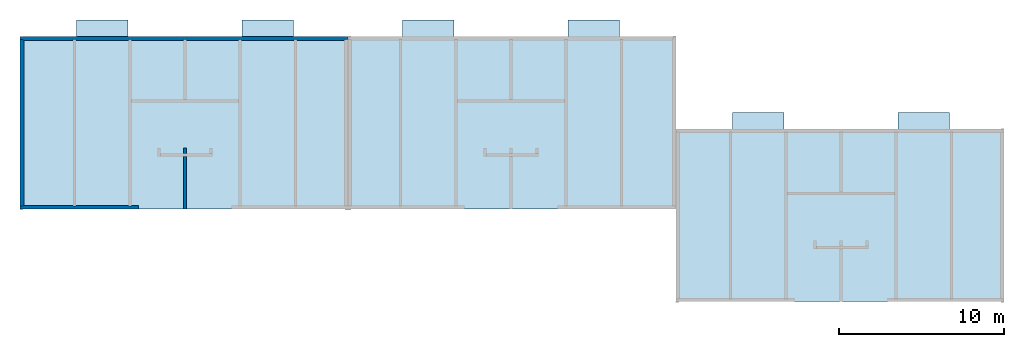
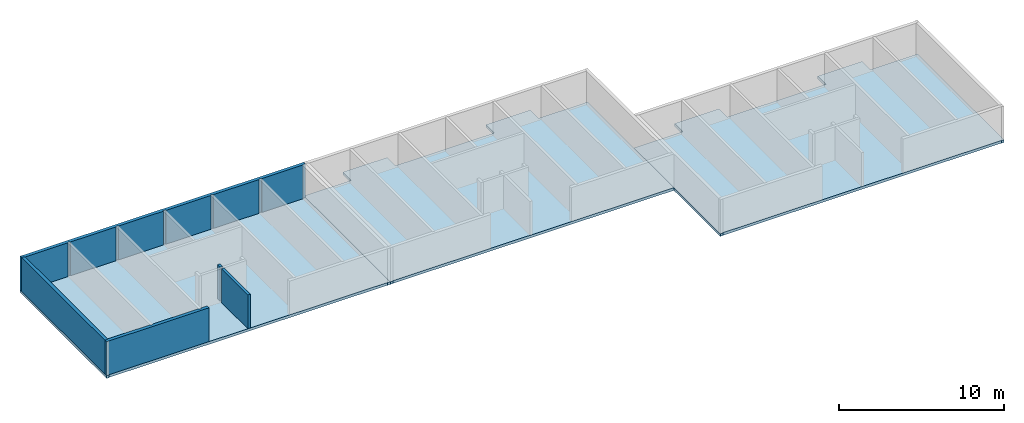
# One storey, part 7 of 9: 5 walls, 3 slabs.
"""IFC2X3 building model written with IfcOpenShell, lengths in metres."""

import ifcopenshell
import ifcopenshell.guid

model = None  # the IFC model being written
_history = None  # IfcOwnerHistory: only IFC2X3 demands one
_inside = {}  # id of a spatial element -> (the spatial element, [elements in it])
_under = {}  # id of a project, library or spatial element -> (it, [spatial elements below it])
_declared = {}  # id of a project -> (the project, [libraries it declares])
_typed = {}  # id of a type object -> (the type object, [elements of that type])
_made_of = {}  # id of a material, layer set ... -> (it, [elements and type objects made of it])


def new_model(schema):
    """Start an empty IFC model of exactly this schema.

    Asked for "IFC4X3", IfcOpenShell would pick the latest addendum, in which some entities
    have other attributes; the version numbers below select the first issue.
    IFC2X3 requires an IfcOwnerHistory on every rooted entity: one is made here for all.
    """
    global model, _history
    if schema == "IFC4X3":
        model = ifcopenshell.file(schema_version=(4, 3, 0, 0))
    else:
        model = ifcopenshell.file(schema=schema)
    _inside.clear()
    _under.clear()
    _declared.clear()
    _typed.clear()
    _made_of.clear()
    _history = None
    if model.schema == "IFC2X3":
        org = make("IfcOrganization", Name="unknown")
        user = make(
            "IfcPersonAndOrganization",
            ThePerson=make("IfcPerson", FamilyName="unknown"),
            TheOrganization=org,
        )
        app = make(
            "IfcApplication",
            ApplicationDeveloper=org,
            Version="unknown",
            ApplicationFullName="unknown",
            ApplicationIdentifier="unknown",
        )
        _history = make(
            "IfcOwnerHistory",
            OwningUser=user,
            OwningApplication=app,
            ChangeAction="ADDED",
            CreationDate=0,
        )
    return model


def make(cls, **values):
    """One entity of the class cls with the attributes given. An attribute that is None is left unset."""
    return model.create_entity(
        cls, **{name: value for name, value in values.items() if value is not None}
    )


def rooted(cls, **values):
    """An entity with a GlobalId (a new one), such as an element, a storey or a relation."""
    return make(cls, GlobalId=ifcopenshell.guid.new(), OwnerHistory=_history, **values)


def si_unit(unit_type, name, prefix=None):
    """IfcSIUnit, for example si_unit("LENGTHUNIT", "METRE", prefix="MILLI")."""
    return make("IfcSIUnit", UnitType=unit_type, Prefix=prefix, Name=name)


def assignment(units):
    """IfcUnitAssignment: the units of a project."""
    return None if units is None else make("IfcUnitAssignment", Units=units)


def point(xyz):
    """IfcCartesianPoint."""
    return None if xyz is None else make("IfcCartesianPoint", Coordinates=xyz)


def direction(xyz):
    """IfcDirection."""
    return None if xyz is None else make("IfcDirection", DirectionRatios=xyz)


def frame(location, z_axis=None, x_axis=None):
    """IfcAxis2Placement3D, a coordinate frame: its origin and axes. An axis left out is left unset."""
    return make(
        "IfcAxis2Placement3D",
        Location=point(location),
        Axis=direction(z_axis),
        RefDirection=direction(x_axis),
    )


def origin():
    """The frame at (0, 0, 0) with its axes left unset."""
    return frame((0.0, 0.0, 0.0))


def place(relative_to, where):
    """IfcLocalPlacement: puts the frame where relative to a parent placement (None: the world)."""
    return make(
        "IfcLocalPlacement", PlacementRelTo=relative_to, RelativePlacement=where
    )


def context(
    kind, dimensions, precision=None, world=None, true_north=None, identifier=None
):
    """IfcGeometricRepresentationContext, for example the 3D "Model" context."""
    return make(
        "IfcGeometricRepresentationContext",
        ContextIdentifier=identifier,
        ContextType=kind,
        CoordinateSpaceDimension=dimensions,
        Precision=precision,
        WorldCoordinateSystem=world,
        TrueNorth=true_north,
    )


def project(units=None, contexts=None):
    """IfcProject with its units and contexts."""
    return rooted(
        "IfcProject",
        Name="project",
        RepresentationContexts=contexts,
        UnitsInContext=assignment(units),
    )


def spatial(cls, under=None, at=None, **own):
    """A site, building, storey or space (cls), placed at a placement, below another one or the project."""
    s = rooted(cls, ObjectPlacement=at, **own)
    if under is not None:
        _under.setdefault(under.id(), (under, []))[1].append(s)
    return s


def faces_of(points, faces, orient=None, outer=None):
    """IfcFace entities. A face is a list of loops; a loop is a list of indices into points, from 0.

    orient and outer hold one flag for each loop. By default every Orientation is true, the
    first loop of a face is its IfcFaceOuterBound and the others are IfcFaceBound.
    """
    made = []
    for i, loops in enumerate(faces):
        bounds = []
        for j, loop in enumerate(loops):
            is_outer = j == 0 if outer is None else outer[i][j]
            bounds.append(
                make(
                    "IfcFaceOuterBound" if is_outer else "IfcFaceBound",
                    Bound=make("IfcPolyLoop", Polygon=[points[k] for k in loop]),
                    Orientation=True if orient is None else orient[i][j],
                )
            )
        made.append(make("IfcFace", Bounds=bounds))
    return made


def faceted_brep(points, faces, orient=None, outer=None, voids=None):
    """IfcFacetedBrep: a solid bounded by flat faces; with voids (closed shells), ...WithVoids."""
    shared = [point(p) for p in points]
    hull = make("IfcClosedShell", CfsFaces=faces_of(shared, faces, orient, outer))
    if voids is None:
        return make("IfcFacetedBrep", Outer=hull)
    return make(
        "IfcFacetedBrepWithVoids",
        Outer=hull,
        Voids=[
            make(cls, CfsFaces=faces_of(shared, fs, o, b)) for cls, fs, o, b in voids
        ],
    )


def shape(context_of_items, identifier, shape_type, items):
    """IfcShapeRepresentation: the items that make up one representation, for example the "Body"."""
    return make(
        "IfcShapeRepresentation",
        ContextOfItems=context_of_items,
        RepresentationIdentifier=identifier,
        RepresentationType=shape_type,
        Items=items,
    )


def made_of(thing, what):
    """Note that an element or type object is made of a material, layer set ...; save() writes the relation."""
    if what is not None:
        _made_of.setdefault(what.id(), (what, []))[1].append(thing)
    return thing


def element(
    cls,
    number,
    at=None,
    inside=None,
    cuts=None,
    type_object=None,
    material=None,
    context=None,
    identifier="Body",
    shape_type=None,
    held_by="IfcProductDefinitionShape",
    body=None,
    shapes=None,
    **own,
):
    """One element of the class cls, such as IfcWall. Its Tag is "e" and its number.

    at: its placement. inside: the storey or other place that contains it. cuts: it is an
    opening in that element (IfcRelVoidsElement). A single representation is given by context,
    identifier, shape_type and body (its items); several are given by shapes. held_by: the class
    of the entity that holds the representations. save() writes the other relations.
    """
    e = rooted(cls, Tag="e%d" % number, ObjectPlacement=at, **own)
    if body is not None:
        shapes = [shape(context, identifier, shape_type, body)]
    if shapes is not None:
        e.Representation = make(held_by, Representations=shapes)
    if inside is not None:
        _inside.setdefault(inside.id(), (inside, []))[1].append(e)
    if cuts is not None:
        rooted(
            "IfcRelVoidsElement", RelatingBuildingElement=cuts, RelatedOpeningElement=e
        )
    if type_object is not None:
        _typed.setdefault(type_object.id(), (type_object, []))[1].append(e)
    return made_of(e, material)


def aggregate(whole, parts):
    """IfcRelAggregates: a whole, such as a stair, and the parts it consists of."""
    return rooted("IfcRelAggregates", RelatingObject=whole, RelatedObjects=parts)


def save(model, path):
    """Write the relations noted so far, then the file.

    IfcRelAggregates (storeys below a building ...), IfcRelContainedInSpatialStructure (elements
    in a storey), IfcRelDefinesByType, IfcRelAssociatesMaterial and IfcRelDeclares: one each for
    every whole, place, type object, material and project.
    """
    for whole, parts in _under.values():
        aggregate(whole, parts)
    for where, things in _inside.values():
        rooted(
            "IfcRelContainedInSpatialStructure",
            RelatedElements=things,
            RelatingStructure=where,
        )
    for kind, things in _typed.values():
        rooted("IfcRelDefinesByType", RelatedObjects=things, RelatingType=kind)
    for what, things in _made_of.values():
        rooted("IfcRelAssociatesMaterial", RelatedObjects=things, RelatingMaterial=what)
    for by, libraries in _declared.values():
        rooted("IfcRelDeclares", RelatingContext=by, RelatedDefinitions=libraries)
    model.write(path)


model = new_model("IFC2X3")

# Units and contexts
model_context = context("Model", 3, precision=1e-06, world=origin())
ifc_project = project(units=[si_unit("LENGTHUNIT", "METRE"), si_unit("PLANEANGLEUNIT", "RADIAN")], contexts=[model_context])

# Site, building, storey
site = spatial("IfcSite", under=ifc_project, CompositionType="ELEMENT")
building = spatial("IfcBuilding", under=site, CompositionType="ELEMENT")
storey = spatial("IfcBuildingStorey", under=building, Name="r+2", CompositionType="ELEMENT", Elevation=5.4)

# Slabs
placement = place(None, origin())
slab_1_placement = place(placement, frame((19.849999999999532, 2e-15, 5.2), z_axis=(0.0, 0.0, 1.0), x_axis=(1.0, 0.0, 0.0)))
element("IfcSlab", 1, at=slab_1_placement, inside=storey, PredefinedType="USERDEFINED", context=model_context, shape_type="Brep", body=[
    faceted_brep([(0.180000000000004, 10.490077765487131, 0.2), (0.180000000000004, 10.470077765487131, 0.2), (0.180000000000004, 10.470077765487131, 0.0), (0.180000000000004, 10.490077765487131, 0.0), (0.180000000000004, 10.470077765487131, 0.2), (3.310000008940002, 10.47007768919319, 0.2), (3.310000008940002, 10.47007768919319, 0.0), (0.180000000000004, 10.470077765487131, 0.0), (3.310000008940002, 10.47007768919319, 0.2), (3.310401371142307, 11.47007760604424, 0.2), (3.310401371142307, 11.47007760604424, 0.0), (3.310000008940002, 10.47007768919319, 0.0), (3.310401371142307, 11.47007760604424, 0.2), (6.410401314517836, 11.47007760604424, 0.2), (6.410401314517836, 11.47007760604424, 0.0), (3.310401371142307, 11.47007760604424, 0.0), (6.410401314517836, 11.47007760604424, 0.2), (6.409999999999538, 10.47007775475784, 0.2), (6.409999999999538, 10.47007775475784, 0.0), (6.410401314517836, 11.47007760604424, 0.0), (6.409999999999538, 10.47007775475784, 0.2), (13.31999999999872, 10.47007768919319, 0.2), (13.31999999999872, 10.47007768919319, 0.0), (6.409999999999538, 10.47007775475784, 0.0), (13.31999999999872, 10.47007768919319, 0.2), (13.31999990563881, 11.47007760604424, 0.2), (13.31999990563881, 11.47007760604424, 0.0), (13.31999999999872, 10.47007768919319, 0.0), (13.31999990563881, 11.47007760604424, 0.2), (16.41999999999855, 11.47007775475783, 0.2), (16.41999999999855, 11.47007775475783, 0.0), (13.31999990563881, 11.47007760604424, 0.0), (16.41999999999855, 11.47007775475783, 0.2), (16.41999999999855, 10.470077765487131, 0.2), (16.41999999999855, 10.470077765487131, 0.0), (16.41999999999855, 11.47007775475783, 0.0), (16.41999999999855, 10.470077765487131, 0.2), (19.669999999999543, 10.470077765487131, 0.2), (19.669999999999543, 10.470077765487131, 0.0), (16.41999999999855, 10.470077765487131, 0.0), (19.669999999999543, 10.470077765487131, 0.2), (19.669999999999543, 10.490077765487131, 0.2), (19.669999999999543, 10.490077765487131, 0.0), (19.669999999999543, 10.470077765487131, 0.0), (19.669999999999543, 10.490077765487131, 0.2), (19.849999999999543, 10.490077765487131, 0.2), (19.849999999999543, 10.490077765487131, 0.0), (19.669999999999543, 10.490077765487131, 0.0), (19.849999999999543, 10.490077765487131, 0.2), (19.849999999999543, 0.020077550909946, 0.2), (19.849999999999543, 0.020077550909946, 0.0), (19.849999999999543, 10.490077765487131, 0.0), (19.849999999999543, 0.020077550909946, 0.2), (12.92499999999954, 0.020162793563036, 0.2), (12.92499999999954, 0.020162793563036, 0.0), (19.849999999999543, 0.020077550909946, 0.0), (12.92499999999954, 0.020162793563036, 0.2), (6.805000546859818, 0.020162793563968, 0.2), (6.805000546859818, 0.020162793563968, 0.0), (12.92499999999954, 0.020162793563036, 0.0), (6.805000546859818, 0.020162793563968, 0.2), (0.18, 0.020162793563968, 0.2), (0.18, 0.020162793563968, 0.0), (6.805000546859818, 0.020162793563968, 0.0), (0.18, 0.020162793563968, 0.2), (0.18, 0.0, 0.2), (0.18, 0.0, 0.0), (0.18, 0.020162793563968, 0.0), (0.18, 0.0, 0.2), (0.0, 0.0, 0.2), (0.0, 0.0, 0.0), (0.18, 0.0, 0.0), (0.0, 0.0, 0.2), (4e-15, 10.490077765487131, 0.2), (4e-15, 10.490077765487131, 0.0), (0.0, 0.0, 0.0), (4e-15, 10.490077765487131, 0.2), (0.180000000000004, 10.490077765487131, 0.2), (0.180000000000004, 10.490077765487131, 0.0), (4e-15, 10.490077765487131, 0.0), (0.180000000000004, 10.490077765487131, 0.2), (4e-15, 10.490077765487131, 0.2), (0.0, 0.0, 0.2), (0.18, 0.0, 0.2), (0.18, 0.020162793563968, 0.2), (6.805000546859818, 0.020162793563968, 0.2), (12.92499999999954, 0.020162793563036, 0.2), (19.849999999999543, 0.020077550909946, 0.2), (19.849999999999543, 10.490077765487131, 0.2), (19.669999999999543, 10.490077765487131, 0.2), (19.669999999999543, 10.470077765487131, 0.2), (16.41999999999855, 10.470077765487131, 0.2), (16.41999999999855, 11.47007775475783, 0.2), (13.31999990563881, 11.47007760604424, 0.2), (13.31999999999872, 10.47007768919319, 0.2), (6.409999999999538, 10.47007775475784, 0.2), (6.410401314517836, 11.47007760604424, 0.2), (3.310401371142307, 11.47007760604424, 0.2), (3.310000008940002, 10.47007768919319, 0.2), (0.180000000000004, 10.470077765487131, 0.2), (0.180000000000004, 10.490077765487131, 0.0), (0.180000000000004, 10.470077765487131, 0.0), (3.310000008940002, 10.47007768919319, 0.0), (3.310401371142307, 11.47007760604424, 0.0), (6.410401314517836, 11.47007760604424, 0.0), (6.409999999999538, 10.47007775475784, 0.0), (13.31999999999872, 10.47007768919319, 0.0), (13.31999990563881, 11.47007760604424, 0.0), (16.41999999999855, 11.47007775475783, 0.0), (16.41999999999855, 10.470077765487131, 0.0), (19.669999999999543, 10.470077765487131, 0.0), (19.669999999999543, 10.490077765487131, 0.0), (19.849999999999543, 10.490077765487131, 0.0), (19.849999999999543, 0.020077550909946, 0.0), (12.92499999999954, 0.020162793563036, 0.0), (6.805000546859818, 0.020162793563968, 0.0), (0.18, 0.020162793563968, 0.0), (0.18, 0.0, 0.0), (0.0, 0.0, 0.0), (4e-15, 10.490077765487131, 0.0)], [[[0, 1, 2, 3]], [[4, 5, 6, 7]], [[8, 9, 10, 11]], [[12, 13, 14, 15]], [[16, 17, 18, 19]], [[20, 21, 22, 23]], [[24, 25, 26, 27]], [[28, 29, 30, 31]], [[32, 33, 34, 35]], [[36, 37, 38, 39]], [[40, 41, 42, 43]], [[44, 45, 46, 47]], [[48, 49, 50, 51]], [[52, 53, 54, 55]], [[56, 57, 58, 59]], [[60, 61, 62, 63]], [[64, 65, 66, 67]], [[68, 69, 70, 71]], [[72, 73, 74, 75]], [[76, 77, 78, 79]], [[80, 81, 82, 83, 84, 85, 86, 87, 88, 89, 90, 91, 92, 93, 94, 95, 96, 97, 98, 99]], [[100, 101, 102, 103, 104, 105, 106, 107, 108, 109, 110, 111, 112, 113, 114, 115, 116, 117, 118, 119]]]),
])
slab_2_placement = place(placement, frame((-6e-15, 0.0, 5.2), z_axis=(0.0, 0.0, 1.0), x_axis=(1.0, 0.0, 0.0)))
element("IfcSlab", 2, at=slab_2_placement, inside=storey, PredefinedType="USERDEFINED", context=model_context, shape_type="Brep", body=[
    faceted_brep([(0.180000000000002, 10.49007776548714, 0.2), (0.180000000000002, 10.47007776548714, 0.2), (0.180000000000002, 10.47007776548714, 0.0), (0.180000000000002, 10.49007776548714, 0.0), (0.180000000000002, 10.47007776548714, 0.2), (3.430000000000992, 10.470077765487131, 0.2), (3.430000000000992, 10.470077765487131, 0.0), (0.180000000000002, 10.47007776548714, 0.0), (3.430000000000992, 10.470077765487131, 0.2), (3.430000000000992, 11.47007775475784, 0.2), (3.430000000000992, 11.47007775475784, 0.0), (3.430000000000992, 10.470077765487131, 0.0), (3.430000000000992, 11.47007775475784, 0.2), (6.530000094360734, 11.47007760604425, 0.2), (6.530000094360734, 11.47007760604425, 0.0), (3.430000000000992, 11.47007775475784, 0.0), (6.530000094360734, 11.47007760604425, 0.2), (6.530000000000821, 10.47007768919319, 0.2), (6.530000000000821, 10.47007768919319, 0.0), (6.530000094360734, 11.47007760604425, 0.0), (6.530000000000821, 10.47007768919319, 0.2), (13.44, 10.47007775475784, 0.2), (13.44, 10.47007775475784, 0.0), (6.530000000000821, 10.47007768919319, 0.0), (13.44, 10.47007775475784, 0.2), (13.439598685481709, 11.47007760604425, 0.2), (13.439598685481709, 11.47007760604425, 0.0), (13.44, 10.47007775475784, 0.0), (13.439598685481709, 11.47007760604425, 0.2), (16.539598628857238, 11.47007760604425, 0.2), (16.539598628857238, 11.47007760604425, 0.0), (13.439598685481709, 11.47007760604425, 0.0), (16.539598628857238, 11.47007760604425, 0.2), (16.53999999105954, 10.47007768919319, 0.2), (16.53999999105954, 10.47007768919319, 0.0), (16.539598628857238, 11.47007760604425, 0.0), (16.53999999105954, 10.47007768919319, 0.2), (19.669999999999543, 10.470077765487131, 0.2), (19.669999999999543, 10.470077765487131, 0.0), (16.53999999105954, 10.47007768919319, 0.0), (19.669999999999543, 10.470077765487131, 0.2), (19.669999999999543, 10.49007776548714, 0.2), (19.669999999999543, 10.49007776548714, 0.0), (19.669999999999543, 10.470077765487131, 0.0), (19.669999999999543, 10.49007776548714, 0.2), (19.849999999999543, 10.49007776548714, 0.2), (19.849999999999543, 10.49007776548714, 0.0), (19.669999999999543, 10.49007776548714, 0.0), (19.849999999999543, 10.49007776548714, 0.2), (19.849999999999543, 2e-15, 0.2), (19.849999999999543, 2e-15, 0.0), (19.849999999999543, 10.49007776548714, 0.0), (19.849999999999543, 2e-15, 0.2), (19.669999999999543, 2e-15, 0.2), (19.669999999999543, 2e-15, 0.0), (19.849999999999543, 2e-15, 0.0), (19.669999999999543, 2e-15, 0.2), (19.669999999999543, 0.02016279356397, 0.2), (19.669999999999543, 0.02016279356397, 0.0), (19.669999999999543, 2e-15, 0.0), (19.669999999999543, 0.02016279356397, 0.2), (13.045000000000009, 0.02016279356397, 0.2), (13.045000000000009, 0.02016279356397, 0.0), (19.669999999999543, 0.02016279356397, 0.0), (13.045000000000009, 0.02016279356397, 0.2), (6.925000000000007, 0.020077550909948, 0.2), (6.925000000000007, 0.020077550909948, 0.0), (13.045000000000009, 0.02016279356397, 0.0), (6.925000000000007, 0.020077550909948, 0.2), (0.18, 0.020077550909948, 0.2), (0.18, 0.020077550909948, 0.0), (6.925000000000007, 0.020077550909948, 0.0), (0.18, 0.020077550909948, 0.2), (0.18, 0.0, 0.2), (0.18, 0.0, 0.0), (0.18, 0.020077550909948, 0.0), (0.18, 0.0, 0.2), (0.0, 0.0, 0.2), (0.0, 0.0, 0.0), (0.18, 0.0, 0.0), (0.0, 0.0, 0.2), (2e-15, 10.49007776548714, 0.2), (2e-15, 10.49007776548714, 0.0), (0.0, 0.0, 0.0), (2e-15, 10.49007776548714, 0.2), (0.180000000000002, 10.49007776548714, 0.2), (0.180000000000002, 10.49007776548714, 0.0), (2e-15, 10.49007776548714, 0.0), (0.180000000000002, 10.49007776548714, 0.2), (2e-15, 10.49007776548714, 0.2), (0.0, 0.0, 0.2), (0.18, 0.0, 0.2), (0.18, 0.020077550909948, 0.2), (6.925000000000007, 0.020077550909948, 0.2), (13.045000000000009, 0.02016279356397, 0.2), (19.669999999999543, 0.02016279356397, 0.2), (19.669999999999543, 2e-15, 0.2), (19.849999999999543, 2e-15, 0.2), (19.849999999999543, 10.49007776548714, 0.2), (19.669999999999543, 10.49007776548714, 0.2), (19.669999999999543, 10.470077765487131, 0.2), (16.53999999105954, 10.47007768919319, 0.2), (16.539598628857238, 11.47007760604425, 0.2), (13.439598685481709, 11.47007760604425, 0.2), (13.44, 10.47007775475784, 0.2), (6.530000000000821, 10.47007768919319, 0.2), (6.530000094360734, 11.47007760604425, 0.2), (3.430000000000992, 11.47007775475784, 0.2), (3.430000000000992, 10.470077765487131, 0.2), (0.180000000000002, 10.47007776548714, 0.2), (0.180000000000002, 10.49007776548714, 0.0), (0.180000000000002, 10.47007776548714, 0.0), (3.430000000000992, 10.470077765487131, 0.0), (3.430000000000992, 11.47007775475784, 0.0), (6.530000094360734, 11.47007760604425, 0.0), (6.530000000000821, 10.47007768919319, 0.0), (13.44, 10.47007775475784, 0.0), (13.439598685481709, 11.47007760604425, 0.0), (16.539598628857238, 11.47007760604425, 0.0), (16.53999999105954, 10.47007768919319, 0.0), (19.669999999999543, 10.470077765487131, 0.0), (19.669999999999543, 10.49007776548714, 0.0), (19.849999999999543, 10.49007776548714, 0.0), (19.849999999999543, 2e-15, 0.0), (19.669999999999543, 2e-15, 0.0), (19.669999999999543, 0.02016279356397, 0.0), (13.045000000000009, 0.02016279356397, 0.0), (6.925000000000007, 0.020077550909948, 0.0), (0.18, 0.020077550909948, 0.0), (0.18, 0.0, 0.0), (0.0, 0.0, 0.0), (2e-15, 10.49007776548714, 0.0)], [[[0, 1, 2, 3]], [[4, 5, 6, 7]], [[8, 9, 10, 11]], [[12, 13, 14, 15]], [[16, 17, 18, 19]], [[20, 21, 22, 23]], [[24, 25, 26, 27]], [[28, 29, 30, 31]], [[32, 33, 34, 35]], [[36, 37, 38, 39]], [[40, 41, 42, 43]], [[44, 45, 46, 47]], [[48, 49, 50, 51]], [[52, 53, 54, 55]], [[56, 57, 58, 59]], [[60, 61, 62, 63]], [[64, 65, 66, 67]], [[68, 69, 70, 71]], [[72, 73, 74, 75]], [[76, 77, 78, 79]], [[80, 81, 82, 83]], [[84, 85, 86, 87]], [[88, 89, 90, 91, 92, 93, 94, 95, 96, 97, 98, 99, 100, 101, 102, 103, 104, 105, 106, 107, 108, 109]], [[110, 111, 112, 113, 114, 115, 116, 117, 118, 119, 120, 121, 122, 123, 124, 125, 126, 127, 128, 129, 130, 131]]]),
])
slab_3_placement = place(placement, frame((39.69999999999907, -5.599999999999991, 5.2), z_axis=(0.0, 0.0, 1.0), x_axis=(1.0, 0.0, 0.0)))
element("IfcSlab", 3, at=slab_3_placement, inside=storey, PredefinedType="USERDEFINED", context=model_context, shape_type="Brep", body=[
    faceted_brep([(0.18, 10.47007776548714, 0.2), (3.430000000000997, 10.470077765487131, 0.2), (3.430000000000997, 10.470077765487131, 0.0), (0.18, 10.47007776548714, 0.0), (3.430000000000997, 10.470077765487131, 0.2), (3.430000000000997, 11.47007775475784, 0.2), (3.430000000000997, 11.47007775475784, 0.0), (3.430000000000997, 10.470077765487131, 0.0), (3.430000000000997, 11.47007775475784, 0.2), (6.530000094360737, 11.47007760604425, 0.2), (6.530000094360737, 11.47007760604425, 0.0), (3.430000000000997, 11.47007775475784, 0.0), (6.530000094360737, 11.47007760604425, 0.2), (6.530000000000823, 10.47007768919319, 0.2), (6.530000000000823, 10.47007768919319, 0.0), (6.530000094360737, 11.47007760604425, 0.0), (6.530000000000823, 10.47007768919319, 0.2), (13.44000000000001, 10.47007775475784, 0.2), (13.44000000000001, 10.47007775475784, 0.0), (6.530000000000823, 10.47007768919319, 0.0), (13.44000000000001, 10.47007775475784, 0.2), (13.439598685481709, 11.47007760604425, 0.2), (13.439598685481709, 11.47007760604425, 0.0), (13.44000000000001, 10.47007775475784, 0.0), (13.439598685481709, 11.47007760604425, 0.2), (16.539598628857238, 11.47007760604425, 0.2), (16.539598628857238, 11.47007760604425, 0.0), (13.439598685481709, 11.47007760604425, 0.0), (16.539598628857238, 11.47007760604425, 0.2), (16.53999999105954, 10.47007768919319, 0.2), (16.53999999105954, 10.47007768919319, 0.0), (16.539598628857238, 11.47007760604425, 0.0), (16.53999999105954, 10.47007768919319, 0.2), (19.669999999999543, 10.470077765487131, 0.2), (19.669999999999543, 10.470077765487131, 0.0), (16.53999999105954, 10.47007768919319, 0.0), (19.669999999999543, 10.470077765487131, 0.2), (19.669999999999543, 10.49007776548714, 0.2), (19.669999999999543, 10.49007776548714, 0.0), (19.669999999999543, 10.470077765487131, 0.0), (19.669999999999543, 10.49007776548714, 0.2), (19.849999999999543, 10.49007776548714, 0.2), (19.849999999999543, 10.49007776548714, 0.0), (19.669999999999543, 10.49007776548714, 0.0), (19.849999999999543, 10.49007776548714, 0.2), (19.849999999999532, 2e-15, 0.2), (19.849999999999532, 2e-15, 0.0), (19.849999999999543, 10.49007776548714, 0.0), (19.849999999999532, 2e-15, 0.2), (19.669999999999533, 2e-15, 0.2), (19.669999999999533, 2e-15, 0.0), (19.849999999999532, 2e-15, 0.0), (19.669999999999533, 2e-15, 0.2), (19.669999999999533, 0.02016279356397, 0.2), (19.669999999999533, 0.02016279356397, 0.0), (19.669999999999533, 2e-15, 0.0), (19.669999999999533, 0.02016279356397, 0.2), (13.04500000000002, 0.02016279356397, 0.2), (13.04500000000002, 0.02016279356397, 0.0), (19.669999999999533, 0.02016279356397, 0.0), (13.04500000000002, 0.02016279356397, 0.2), (6.925000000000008, 0.020077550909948, 0.2), (6.925000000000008, 0.020077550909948, 0.0), (13.04500000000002, 0.02016279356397, 0.0), (6.925000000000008, 0.020077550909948, 0.2), (0.18, 0.020077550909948, 0.2), (0.18, 0.020077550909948, 0.0), (6.925000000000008, 0.020077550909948, 0.0), (0.18, 0.020077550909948, 0.2), (0.18, 0.0, 0.2), (0.18, 0.0, 0.0), (0.18, 0.020077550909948, 0.0), (0.18, 0.0, 0.2), (0.0, 0.0, 0.2), (0.0, 0.0, 0.0), (0.18, 0.0, 0.0), (0.0, 0.0, 0.2), (7e-15, 10.47007776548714, 0.2), (7e-15, 10.47007776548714, 0.0), (0.0, 0.0, 0.0), (7e-15, 10.47007776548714, 0.2), (0.18, 10.47007776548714, 0.2), (0.18, 10.47007776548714, 0.0), (7e-15, 10.47007776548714, 0.0), (0.18, 10.47007776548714, 0.2), (7e-15, 10.47007776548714, 0.2), (0.0, 0.0, 0.2), (0.18, 0.0, 0.2), (0.18, 0.020077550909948, 0.2), (6.925000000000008, 0.020077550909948, 0.2), (13.04500000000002, 0.02016279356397, 0.2), (19.669999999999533, 0.02016279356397, 0.2), (19.669999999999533, 2e-15, 0.2), (19.849999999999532, 2e-15, 0.2), (19.849999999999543, 10.49007776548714, 0.2), (19.669999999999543, 10.49007776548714, 0.2), (19.669999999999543, 10.470077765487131, 0.2), (16.53999999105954, 10.47007768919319, 0.2), (16.539598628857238, 11.47007760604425, 0.2), (13.439598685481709, 11.47007760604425, 0.2), (13.44000000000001, 10.47007775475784, 0.2), (6.530000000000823, 10.47007768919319, 0.2), (6.530000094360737, 11.47007760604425, 0.2), (3.430000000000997, 11.47007775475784, 0.2), (3.430000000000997, 10.470077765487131, 0.2), (0.18, 10.47007776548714, 0.0), (3.430000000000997, 10.470077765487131, 0.0), (3.430000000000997, 11.47007775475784, 0.0), (6.530000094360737, 11.47007760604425, 0.0), (6.530000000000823, 10.47007768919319, 0.0), (13.44000000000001, 10.47007775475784, 0.0), (13.439598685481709, 11.47007760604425, 0.0), (16.539598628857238, 11.47007760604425, 0.0), (16.53999999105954, 10.47007768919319, 0.0), (19.669999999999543, 10.470077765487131, 0.0), (19.669999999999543, 10.49007776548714, 0.0), (19.849999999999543, 10.49007776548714, 0.0), (19.849999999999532, 2e-15, 0.0), (19.669999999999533, 2e-15, 0.0), (19.669999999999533, 0.02016279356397, 0.0), (13.04500000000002, 0.02016279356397, 0.0), (6.925000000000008, 0.020077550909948, 0.0), (0.18, 0.020077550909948, 0.0), (0.18, 0.0, 0.0), (0.0, 0.0, 0.0), (7e-15, 10.47007776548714, 0.0)], [[[0, 1, 2, 3]], [[4, 5, 6, 7]], [[8, 9, 10, 11]], [[12, 13, 14, 15]], [[16, 17, 18, 19]], [[20, 21, 22, 23]], [[24, 25, 26, 27]], [[28, 29, 30, 31]], [[32, 33, 34, 35]], [[36, 37, 38, 39]], [[40, 41, 42, 43]], [[44, 45, 46, 47]], [[48, 49, 50, 51]], [[52, 53, 54, 55]], [[56, 57, 58, 59]], [[60, 61, 62, 63]], [[64, 65, 66, 67]], [[68, 69, 70, 71]], [[72, 73, 74, 75]], [[76, 77, 78, 79]], [[80, 81, 82, 83]], [[84, 85, 86, 87, 88, 89, 90, 91, 92, 93, 94, 95, 96, 97, 98, 99, 100, 101, 102, 103, 104]], [[105, 106, 107, 108, 109, 110, 111, 112, 113, 114, 115, 116, 117, 118, 119, 120, 121, 122, 123, 124, 125]]]),
])

# Walls
wall_1_placement = place(placement, frame((19.849999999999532, 10.47007776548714, 5.4), z_axis=(0.0, 0.0, 1.0), x_axis=(-1.0, 0.0, 0.0)))
element("IfcWall", 4, at=wall_1_placement, inside=storey, context=model_context, shape_type="Brep", body=[
    faceted_brep([(19.62999999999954, 0.23, 2.5), (19.62999999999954, 0.22, 2.5), (19.62999999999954, 0.22, 0.0), (19.62999999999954, 0.23, 0.0), (19.62999999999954, 0.22, 2.5), (19.669999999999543, 0.22, 2.5), (19.669999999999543, 0.22, 0.0), (19.62999999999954, 0.22, 0.0), (19.669999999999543, 0.22, 2.5), (19.669999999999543, 0.18, 2.5), (19.669999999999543, 0.18, 0.0), (19.669999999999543, 0.22, 0.0), (19.669999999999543, 0.18, 2.5), (19.849999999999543, 0.18, 2.5), (19.849999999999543, 0.18, 0.0), (19.669999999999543, 0.18, 0.0), (19.849999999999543, 0.18, 2.5), (19.849999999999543, 0.0, 2.5), (19.849999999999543, 0.0, 0.0), (19.849999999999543, 0.18, 0.0), (19.849999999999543, 0.0, 2.5), (0.0, 0.0, 2.5), (0.0, 0.0, 0.0), (19.849999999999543, 0.0, 0.0), (0.0, 0.0, 2.5), (0.0, 0.18, 2.5), (0.0, 0.18, 0.0), (0.0, 0.0, 0.0), (0.0, 0.18, 2.5), (0.18, 0.18, 2.5), (0.18, 0.18, 0.0), (0.0, 0.18, 0.0), (0.18, 0.18, 2.5), (0.18, 0.22, 2.5), (0.18, 0.22, 0.0), (0.18, 0.18, 0.0), (0.18, 0.22, 2.5), (0.22, 0.22, 2.5), (0.22, 0.22, 0.0), (0.18, 0.22, 0.0), (0.22, 0.22, 2.5), (0.22, 0.23, 2.5), (0.22, 0.23, 0.0), (0.22, 0.22, 0.0), (0.22, 0.23, 2.5), (3.079999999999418, 0.23, 2.5), (3.079999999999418, 0.23, 0.0), (0.22, 0.23, 0.0), (3.079999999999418, 0.23, 2.5), (3.079999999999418, 0.18, 2.5), (3.079999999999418, 0.18, 0.0), (3.079999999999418, 0.23, 0.0), (3.079999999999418, 0.18, 2.5), (3.259999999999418, 0.18, 2.5), (3.259999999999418, 0.18, 0.0), (3.079999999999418, 0.18, 0.0), (3.259999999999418, 0.18, 2.5), (3.259999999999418, 0.23, 2.5), (3.259999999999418, 0.23, 0.0), (3.259999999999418, 0.18, 0.0), (3.259999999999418, 0.23, 2.5), (6.46000006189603, 0.230000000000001, 2.5), (6.46000006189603, 0.230000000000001, 0.0), (3.259999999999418, 0.23, 0.0), (6.46000006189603, 0.230000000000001, 2.5), (6.46000006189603, 0.180000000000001, 2.5), (6.46000006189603, 0.180000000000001, 0.0), (6.46000006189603, 0.230000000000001, 0.0), (6.46000006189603, 0.180000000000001, 2.5), (6.640000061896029, 0.180000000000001, 2.5), (6.640000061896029, 0.180000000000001, 0.0), (6.46000006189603, 0.180000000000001, 0.0), (6.640000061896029, 0.180000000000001, 2.5), (6.640000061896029, 0.230000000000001, 2.5), (6.640000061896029, 0.230000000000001, 0.0), (6.640000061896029, 0.180000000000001, 0.0), (6.640000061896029, 0.230000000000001, 2.5), (9.774999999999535, 0.230000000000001, 2.5), (9.774999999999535, 0.230000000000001, 0.0), (6.640000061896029, 0.230000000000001, 0.0), (9.774999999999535, 0.230000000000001, 2.5), (9.774999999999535, 0.180000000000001, 2.5), (9.774999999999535, 0.180000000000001, 0.0), (9.774999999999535, 0.230000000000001, 0.0), (9.774999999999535, 0.180000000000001, 2.5), (9.954999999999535, 0.180000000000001, 2.5), (9.954999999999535, 0.180000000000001, 0.0), (9.774999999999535, 0.180000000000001, 0.0), (9.954999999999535, 0.180000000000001, 2.5), (9.954999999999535, 0.230000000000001, 2.5), (9.954999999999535, 0.230000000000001, 0.0), (9.954999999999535, 0.180000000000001, 0.0), (9.954999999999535, 0.230000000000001, 2.5), (13.08999999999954, 0.229999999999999, 2.5), (13.08999999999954, 0.229999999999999, 0.0), (9.954999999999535, 0.230000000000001, 0.0), (13.08999999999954, 0.229999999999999, 2.5), (13.08999999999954, 0.179999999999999, 2.5), (13.08999999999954, 0.179999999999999, 0.0), (13.08999999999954, 0.229999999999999, 0.0), (13.08999999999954, 0.179999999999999, 2.5), (13.26999999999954, 0.179999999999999, 2.5), (13.26999999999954, 0.179999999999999, 0.0), (13.08999999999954, 0.179999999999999, 0.0), (13.26999999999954, 0.179999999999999, 2.5), (13.26999999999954, 0.229999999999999, 2.5), (13.26999999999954, 0.229999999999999, 0.0), (13.26999999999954, 0.179999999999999, 0.0), (13.26999999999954, 0.229999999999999, 2.5), (16.46999999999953, 0.23, 2.5), (16.46999999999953, 0.23, 0.0), (13.26999999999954, 0.229999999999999, 0.0), (16.46999999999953, 0.23, 2.5), (16.46999999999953, 0.18, 2.5), (16.46999999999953, 0.18, 0.0), (16.46999999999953, 0.23, 0.0), (16.46999999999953, 0.18, 2.5), (16.64999999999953, 0.18, 2.5), (16.64999999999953, 0.18, 0.0), (16.46999999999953, 0.18, 0.0), (16.64999999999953, 0.18, 2.5), (16.64999999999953, 0.23, 2.5), (16.64999999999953, 0.23, 0.0), (16.64999999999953, 0.18, 0.0), (16.64999999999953, 0.23, 2.5), (19.62999999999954, 0.23, 2.5), (19.62999999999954, 0.23, 0.0), (16.64999999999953, 0.23, 0.0), (19.62999999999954, 0.23, 2.5), (16.64999999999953, 0.23, 2.5), (16.64999999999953, 0.18, 2.5), (16.46999999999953, 0.18, 2.5), (16.46999999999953, 0.23, 2.5), (13.26999999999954, 0.229999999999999, 2.5), (13.26999999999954, 0.179999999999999, 2.5), (13.08999999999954, 0.179999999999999, 2.5), (13.08999999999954, 0.229999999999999, 2.5), (9.954999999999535, 0.230000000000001, 2.5), (9.954999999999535, 0.180000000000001, 2.5), (9.774999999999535, 0.180000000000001, 2.5), (9.774999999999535, 0.230000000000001, 2.5), (6.640000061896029, 0.230000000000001, 2.5), (6.640000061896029, 0.180000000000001, 2.5), (6.46000006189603, 0.180000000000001, 2.5), (6.46000006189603, 0.230000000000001, 2.5), (3.259999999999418, 0.23, 2.5), (3.259999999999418, 0.18, 2.5), (3.079999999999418, 0.18, 2.5), (3.079999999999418, 0.23, 2.5), (0.22, 0.23, 2.5), (0.22, 0.22, 2.5), (0.18, 0.22, 2.5), (0.18, 0.18, 2.5), (0.0, 0.18, 2.5), (0.0, 0.0, 2.5), (19.849999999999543, 0.0, 2.5), (19.849999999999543, 0.18, 2.5), (19.669999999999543, 0.18, 2.5), (19.669999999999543, 0.22, 2.5), (19.62999999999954, 0.22, 2.5), (19.62999999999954, 0.23, 0.0), (19.62999999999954, 0.22, 0.0), (19.669999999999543, 0.22, 0.0), (19.669999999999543, 0.18, 0.0), (19.849999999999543, 0.18, 0.0), (19.849999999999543, 0.0, 0.0), (0.0, 0.0, 0.0), (0.0, 0.18, 0.0), (0.18, 0.18, 0.0), (0.18, 0.22, 0.0), (0.22, 0.22, 0.0), (0.22, 0.23, 0.0), (3.079999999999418, 0.23, 0.0), (3.079999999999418, 0.18, 0.0), (3.259999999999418, 0.18, 0.0), (3.259999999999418, 0.23, 0.0), (6.46000006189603, 0.230000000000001, 0.0), (6.46000006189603, 0.180000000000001, 0.0), (6.640000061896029, 0.180000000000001, 0.0), (6.640000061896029, 0.230000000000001, 0.0), (9.774999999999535, 0.230000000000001, 0.0), (9.774999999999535, 0.180000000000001, 0.0), (9.954999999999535, 0.180000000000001, 0.0), (9.954999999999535, 0.230000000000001, 0.0), (13.08999999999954, 0.229999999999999, 0.0), (13.08999999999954, 0.179999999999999, 0.0), (13.26999999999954, 0.179999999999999, 0.0), (13.26999999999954, 0.229999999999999, 0.0), (16.46999999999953, 0.23, 0.0), (16.46999999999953, 0.18, 0.0), (16.64999999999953, 0.18, 0.0), (16.64999999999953, 0.23, 0.0)], [[[0, 1, 2, 3]], [[4, 5, 6, 7]], [[8, 9, 10, 11]], [[12, 13, 14, 15]], [[16, 17, 18, 19]], [[20, 21, 22, 23]], [[24, 25, 26, 27]], [[28, 29, 30, 31]], [[32, 33, 34, 35]], [[36, 37, 38, 39]], [[40, 41, 42, 43]], [[44, 45, 46, 47]], [[48, 49, 50, 51]], [[52, 53, 54, 55]], [[56, 57, 58, 59]], [[60, 61, 62, 63]], [[64, 65, 66, 67]], [[68, 69, 70, 71]], [[72, 73, 74, 75]], [[76, 77, 78, 79]], [[80, 81, 82, 83]], [[84, 85, 86, 87]], [[88, 89, 90, 91]], [[92, 93, 94, 95]], [[96, 97, 98, 99]], [[100, 101, 102, 103]], [[104, 105, 106, 107]], [[108, 109, 110, 111]], [[112, 113, 114, 115]], [[116, 117, 118, 119]], [[120, 121, 122, 123]], [[124, 125, 126, 127]], [[128, 129, 130, 131, 132, 133, 134, 135, 136, 137, 138, 139, 140, 141, 142, 143, 144, 145, 146, 147, 148, 149, 150, 151, 152, 153, 154, 155, 156, 157, 158, 159]], [[160, 161, 162, 163, 164, 165, 166, 167, 168, 169, 170, 171, 172, 173, 174, 175, 176, 177, 178, 179, 180, 181, 182, 183, 184, 185, 186, 187, 188, 189, 190, 191]]]),
])
wall_2_placement = place(placement, frame((10.075000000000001, 0.020038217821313, 5.4), z_axis=(0.0, 0.0, 1.0), x_axis=(0.0, 1.0, 0.0)))
element("IfcWall", 5, at=wall_2_placement, inside=storey, context=model_context, shape_type="Brep", body=[
    faceted_brep([(3.700039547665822, 0.18, 2.5), (3.700039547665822, 0.0, 2.5), (3.700039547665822, 0.0, 0.0), (3.700039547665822, 0.18, 0.0), (3.700039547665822, 0.0, 2.5), (3.380039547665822, 0.0, 2.5), (3.380039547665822, 0.0, 0.0), (3.700039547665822, 0.0, 0.0), (3.380039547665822, 0.0, 2.5), (3.380039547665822, 0.18, 2.5), (3.380039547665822, 0.18, 0.0), (3.380039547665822, 0.0, 0.0), (3.380039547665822, 0.18, 2.5), (3.700039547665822, 0.18, 2.5), (3.700039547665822, 0.18, 0.0), (3.380039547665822, 0.18, 0.0), (3.700039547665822, 0.18, 2.5), (3.380039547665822, 0.18, 2.5), (3.380039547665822, 0.0, 2.5), (3.700039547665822, 0.0, 2.5), (3.700039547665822, 0.18, 0.0), (3.700039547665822, 0.0, 0.0), (3.380039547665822, 0.0, 0.0), (3.380039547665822, 0.18, 0.0)], [[[0, 1, 2, 3]], [[4, 5, 6, 7]], [[8, 9, 10, 11]], [[12, 13, 14, 15]], [[16, 17, 18, 19]], [[20, 21, 22, 23]]]),
])
wall_3_placement = place(placement, frame((-6e-15, 0.020077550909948, 5.4), z_axis=(0.0, 0.0, 1.0), x_axis=(1.0, 0.0, 0.0)))
element("IfcWall", 6, at=wall_3_placement, inside=storey, context=model_context, shape_type="Brep", body=[
    faceted_brep([(7.175000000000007, 0.0, 2.5), (0.0, 0.0, 2.5), (0.0, 0.0, 0.0), (7.175000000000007, 0.0, 0.0), (0.0, 0.0, 2.5), (0.0, 0.18, 2.5), (0.0, 0.18, 0.0), (0.0, 0.0, 0.0), (0.0, 0.18, 2.5), (0.18, 0.18, 2.5), (0.18, 0.18, 0.0), (0.0, 0.18, 0.0), (0.18, 0.18, 2.5), (0.18, 0.22, 2.5), (0.18, 0.22, 0.0), (0.18, 0.18, 0.0), (0.18, 0.22, 2.5), (0.22, 0.22, 2.5), (0.22, 0.22, 0.0), (0.18, 0.22, 0.0), (0.22, 0.22, 2.5), (0.22, 0.23, 2.5), (0.22, 0.23, 0.0), (0.22, 0.22, 0.0), (0.22, 0.23, 2.5), (3.200000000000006, 0.23, 2.5), (3.200000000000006, 0.23, 0.0), (0.22, 0.23, 0.0), (3.200000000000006, 0.23, 2.5), (3.200000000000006, 0.18, 2.5), (3.200000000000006, 0.18, 0.0), (3.200000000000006, 0.23, 0.0), (3.200000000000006, 0.18, 2.5), (3.380000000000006, 0.18, 2.5), (3.380000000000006, 0.18, 0.0), (3.200000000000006, 0.18, 0.0), (3.380000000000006, 0.18, 2.5), (3.380000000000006, 0.23, 2.5), (3.380000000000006, 0.23, 0.0), (3.380000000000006, 0.18, 0.0), (3.380000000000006, 0.23, 2.5), (6.580000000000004, 0.23, 2.5), (6.580000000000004, 0.23, 0.0), (3.380000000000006, 0.23, 0.0), (6.580000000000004, 0.23, 2.5), (6.580000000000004, 0.18, 2.5), (6.580000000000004, 0.18, 0.0), (6.580000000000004, 0.23, 0.0), (6.580000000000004, 0.18, 2.5), (6.760000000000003, 0.18, 2.5), (6.760000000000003, 0.18, 0.0), (6.580000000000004, 0.18, 0.0), (6.760000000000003, 0.18, 2.5), (6.760000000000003, 0.23, 2.5), (6.760000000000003, 0.23, 0.0), (6.760000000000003, 0.18, 0.0), (6.760000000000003, 0.23, 2.5), (7.175000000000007, 0.23, 2.5), (7.175000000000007, 0.23, 0.0), (6.760000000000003, 0.23, 0.0), (7.175000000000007, 0.23, 2.5), (7.175000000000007, 0.0, 2.5), (7.175000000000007, 0.0, 0.0), (7.175000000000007, 0.23, 0.0), (7.175000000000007, 0.0, 2.5), (7.175000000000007, 0.23, 2.5), (6.760000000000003, 0.23, 2.5), (6.760000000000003, 0.18, 2.5), (6.580000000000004, 0.18, 2.5), (6.580000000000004, 0.23, 2.5), (3.380000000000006, 0.23, 2.5), (3.380000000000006, 0.18, 2.5), (3.200000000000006, 0.18, 2.5), (3.200000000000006, 0.23, 2.5), (0.22, 0.23, 2.5), (0.22, 0.22, 2.5), (0.18, 0.22, 2.5), (0.18, 0.18, 2.5), (0.0, 0.18, 2.5), (0.0, 0.0, 2.5), (7.175000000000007, 0.0, 0.0), (0.0, 0.0, 0.0), (0.0, 0.18, 0.0), (0.18, 0.18, 0.0), (0.18, 0.22, 0.0), (0.22, 0.22, 0.0), (0.22, 0.23, 0.0), (3.200000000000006, 0.23, 0.0), (3.200000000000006, 0.18, 0.0), (3.380000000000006, 0.18, 0.0), (3.380000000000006, 0.23, 0.0), (6.580000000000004, 0.23, 0.0), (6.580000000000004, 0.18, 0.0), (6.760000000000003, 0.18, 0.0), (6.760000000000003, 0.23, 0.0), (7.175000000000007, 0.23, 0.0)], [[[0, 1, 2, 3]], [[4, 5, 6, 7]], [[8, 9, 10, 11]], [[12, 13, 14, 15]], [[16, 17, 18, 19]], [[20, 21, 22, 23]], [[24, 25, 26, 27]], [[28, 29, 30, 31]], [[32, 33, 34, 35]], [[36, 37, 38, 39]], [[40, 41, 42, 43]], [[44, 45, 46, 47]], [[48, 49, 50, 51]], [[52, 53, 54, 55]], [[56, 57, 58, 59]], [[60, 61, 62, 63]], [[64, 65, 66, 67, 68, 69, 70, 71, 72, 73, 74, 75, 76, 77, 78, 79]], [[80, 81, 82, 83, 84, 85, 86, 87, 88, 89, 90, 91, 92, 93, 94, 95]]]),
])
wall_4_placement = place(placement, frame((-4e-15, 10.29007776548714, 5.4), z_axis=(0.0, 0.0, 1.0), x_axis=(0.0, -1.0, 0.0)))
element("IfcWall", 7, at=wall_4_placement, inside=storey, context=model_context, shape_type="Brep", body=[
    faceted_brep([(0.04, 0.18, 2.5), (0.04, 0.22, 2.5), (0.04, 0.22, 0.0), (0.04, 0.18, 0.0), (0.04, 0.22, 2.5), (0.05, 0.22, 2.5), (0.05, 0.22, 0.0), (0.04, 0.22, 0.0), (0.05, 0.22, 2.5), (0.05, 0.23, 2.5), (0.05, 0.23, 0.0), (0.05, 0.22, 0.0), (0.05, 0.23, 2.5), (10.04000021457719, 0.23, 2.5), (10.04000021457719, 0.23, 0.0), (0.05, 0.23, 0.0), (10.04000021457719, 0.23, 2.5), (10.04000021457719, 0.22, 2.5), (10.04000021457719, 0.22, 0.0), (10.04000021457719, 0.23, 0.0), (10.04000021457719, 0.22, 2.5), (10.05000021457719, 0.22, 2.5), (10.05000021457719, 0.22, 0.0), (10.04000021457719, 0.22, 0.0), (10.05000021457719, 0.22, 2.5), (10.05000021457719, 0.18, 2.5), (10.05000021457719, 0.18, 0.0), (10.05000021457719, 0.22, 0.0), (10.05000021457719, 0.18, 2.5), (10.090000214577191, 0.18, 2.5), (10.090000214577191, 0.18, 0.0), (10.05000021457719, 0.18, 0.0), (10.090000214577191, 0.18, 2.5), (10.090000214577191, 0.0, 2.5), (10.090000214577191, 0.0, 0.0), (10.090000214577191, 0.18, 0.0), (10.090000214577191, 0.0, 2.5), (0.0, 0.0, 2.5), (0.0, 0.0, 0.0), (10.090000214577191, 0.0, 0.0), (0.0, 0.0, 2.5), (0.0, 0.18, 2.5), (0.0, 0.18, 0.0), (0.0, 0.0, 0.0), (0.0, 0.18, 2.5), (0.04, 0.18, 2.5), (0.04, 0.18, 0.0), (0.0, 0.18, 0.0), (0.04, 0.18, 2.5), (0.0, 0.18, 2.5), (0.0, 0.0, 2.5), (10.090000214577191, 0.0, 2.5), (10.090000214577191, 0.18, 2.5), (10.05000021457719, 0.18, 2.5), (10.05000021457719, 0.22, 2.5), (10.04000021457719, 0.22, 2.5), (10.04000021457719, 0.23, 2.5), (0.05, 0.23, 2.5), (0.05, 0.22, 2.5), (0.04, 0.22, 2.5), (0.04, 0.18, 0.0), (0.04, 0.22, 0.0), (0.05, 0.22, 0.0), (0.05, 0.23, 0.0), (10.04000021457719, 0.23, 0.0), (10.04000021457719, 0.22, 0.0), (10.05000021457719, 0.22, 0.0), (10.05000021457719, 0.18, 0.0), (10.090000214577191, 0.18, 0.0), (10.090000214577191, 0.0, 0.0), (0.0, 0.0, 0.0), (0.0, 0.18, 0.0)], [[[0, 1, 2, 3]], [[4, 5, 6, 7]], [[8, 9, 10, 11]], [[12, 13, 14, 15]], [[16, 17, 18, 19]], [[20, 21, 22, 23]], [[24, 25, 26, 27]], [[28, 29, 30, 31]], [[32, 33, 34, 35]], [[36, 37, 38, 39]], [[40, 41, 42, 43]], [[44, 45, 46, 47]], [[48, 49, 50, 51, 52, 53, 54, 55, 56, 57, 58, 59]], [[60, 61, 62, 63, 64, 65, 66, 67, 68, 69, 70, 71]]]),
])
wall_5_placement = place(placement, frame((10.075000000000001, 0.020038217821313, 5.4), z_axis=(0.0, 0.0, 1.0), x_axis=(0.0, 1.0, 0.0)))
element("IfcWall", 8, at=wall_5_placement, inside=storey, context=model_context, shape_type="Brep", body=[
    faceted_brep([(3.200039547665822, 0.18, 2.5), (3.200039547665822, 0.0, 2.5), (3.200039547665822, 0.0, 0.0), (3.200039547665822, 0.18, 0.0), (3.200039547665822, 0.0, 2.5), (0.0, 0.0, 2.5), (0.0, 0.0, 0.0), (3.200039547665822, 0.0, 0.0), (0.0, 0.0, 2.5), (7.16957565e-07, 0.18, 2.5), (7.16957565e-07, 0.18, 0.0), (0.0, 0.0, 0.0), (7.16957565e-07, 0.18, 2.5), (3.200039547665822, 0.18, 2.5), (3.200039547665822, 0.18, 0.0), (7.16957565e-07, 0.18, 0.0), (3.200039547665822, 0.18, 2.5), (7.16957565e-07, 0.18, 2.5), (0.0, 0.0, 2.5), (3.200039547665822, 0.0, 2.5), (3.200039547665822, 0.18, 0.0), (3.200039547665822, 0.0, 0.0), (0.0, 0.0, 0.0), (7.16957565e-07, 0.18, 0.0)], [[[0, 1, 2, 3]], [[4, 5, 6, 7]], [[8, 9, 10, 11]], [[12, 13, 14, 15]], [[16, 17, 18, 19]], [[20, 21, 22, 23]]]),
])

save(model, "model.ifc")
